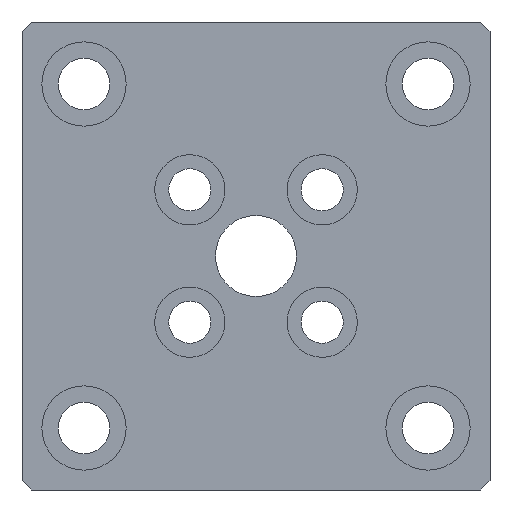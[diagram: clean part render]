
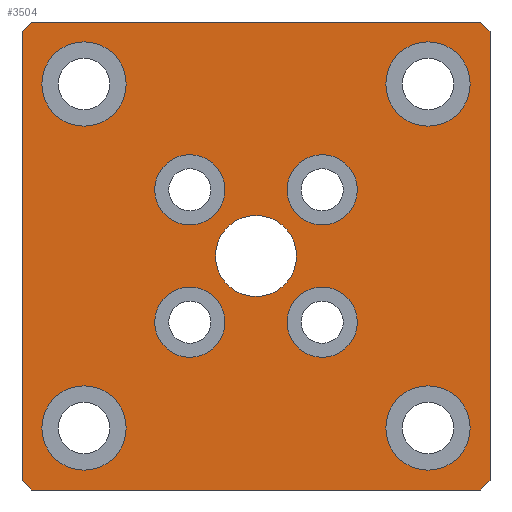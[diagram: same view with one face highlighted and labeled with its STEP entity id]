
A CAD part, front view. The second image highlights one B-rep face of the part: STEP entity #3504.
In plain terms, the highlighted planar face has unit normal (0, -1, 0).
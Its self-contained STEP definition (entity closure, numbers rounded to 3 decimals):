
#45=CIRCLE('',#3622,9.);
#46=CIRCLE('',#3623,9.);
#50=CIRCLE('',#3630,9.);
#51=CIRCLE('',#3631,9.);
#55=CIRCLE('',#3638,9.);
#56=CIRCLE('',#3639,9.);
#60=CIRCLE('',#3646,9.);
#61=CIRCLE('',#3647,9.);
#65=CIRCLE('',#3654,7.5);
#66=CIRCLE('',#3655,7.5);
#70=CIRCLE('',#3662,7.5);
#71=CIRCLE('',#3663,7.5);
#75=CIRCLE('',#3670,7.5);
#76=CIRCLE('',#3671,7.5);
#80=CIRCLE('',#3678,7.5);
#81=CIRCLE('',#3679,7.5);
#82=CIRCLE('',#3684,8.647);
#115=FACE_BOUND('',#761,.T.);
#116=FACE_BOUND('',#762,.T.);
#117=FACE_BOUND('',#763,.T.);
#118=FACE_BOUND('',#764,.T.);
#119=FACE_BOUND('',#765,.T.);
#120=FACE_BOUND('',#766,.T.);
#121=FACE_BOUND('',#767,.T.);
#122=FACE_BOUND('',#768,.T.);
#123=FACE_BOUND('',#769,.T.);
#540=FACE_OUTER_BOUND('',#760,.T.);
#760=EDGE_LOOP('',(#3171,#3172,#3173,#3174,#3175,#3176,#3177,#3178));
#761=EDGE_LOOP('',(#3179,#3180));
#762=EDGE_LOOP('',(#3181,#3182));
#763=EDGE_LOOP('',(#3183,#3184));
#764=EDGE_LOOP('',(#3185,#3186));
#765=EDGE_LOOP('',(#3187,#3188));
#766=EDGE_LOOP('',(#3189,#3190));
#767=EDGE_LOOP('',(#3191,#3192));
#768=EDGE_LOOP('',(#3193,#3194));
#769=EDGE_LOOP('',(#3195));
#1059=LINE('',#6343,#1356);
#1061=LINE('',#6347,#1358);
#1063=LINE('',#6351,#1360);
#1064=LINE('',#6353,#1361);
#1065=LINE('',#6355,#1362);
#1066=LINE('',#6357,#1363);
#1067=LINE('',#6359,#1364);
#1068=LINE('',#6360,#1365);
#1356=VECTOR('',#4274,10.);
#1358=VECTOR('',#4278,10.);
#1360=VECTOR('',#4282,10.);
#1361=VECTOR('',#4283,10.);
#1362=VECTOR('',#4284,10.);
#1363=VECTOR('',#4285,10.);
#1364=VECTOR('',#4286,10.);
#1365=VECTOR('',#4287,10.);
#1669=VERTEX_POINT('',#6227);
#1670=VERTEX_POINT('',#6228);
#1674=VERTEX_POINT('',#6242);
#1675=VERTEX_POINT('',#6243);
#1679=VERTEX_POINT('',#6257);
#1680=VERTEX_POINT('',#6258);
#1684=VERTEX_POINT('',#6272);
#1685=VERTEX_POINT('',#6273);
#1689=VERTEX_POINT('',#6287);
#1690=VERTEX_POINT('',#6288);
#1694=VERTEX_POINT('',#6302);
#1695=VERTEX_POINT('',#6303);
#1699=VERTEX_POINT('',#6317);
#1700=VERTEX_POINT('',#6318);
#1704=VERTEX_POINT('',#6332);
#1705=VERTEX_POINT('',#6333);
#1706=VERTEX_POINT('',#6340);
#1707=VERTEX_POINT('',#6342);
#1708=VERTEX_POINT('',#6346);
#1709=VERTEX_POINT('',#6350);
#1710=VERTEX_POINT('',#6352);
#1711=VERTEX_POINT('',#6354);
#1712=VERTEX_POINT('',#6356);
#1713=VERTEX_POINT('',#6358);
#1714=VERTEX_POINT('',#6361);
#2150=EDGE_CURVE('',#1669,#1670,#45,.T.);
#2151=EDGE_CURVE('',#1670,#1669,#46,.T.);
#2157=EDGE_CURVE('',#1674,#1675,#50,.T.);
#2158=EDGE_CURVE('',#1675,#1674,#51,.T.);
#2164=EDGE_CURVE('',#1679,#1680,#55,.T.);
#2165=EDGE_CURVE('',#1680,#1679,#56,.T.);
#2171=EDGE_CURVE('',#1684,#1685,#60,.T.);
#2172=EDGE_CURVE('',#1685,#1684,#61,.T.);
#2178=EDGE_CURVE('',#1689,#1690,#65,.T.);
#2179=EDGE_CURVE('',#1690,#1689,#66,.T.);
#2185=EDGE_CURVE('',#1694,#1695,#70,.T.);
#2186=EDGE_CURVE('',#1695,#1694,#71,.T.);
#2192=EDGE_CURVE('',#1699,#1700,#75,.T.);
#2193=EDGE_CURVE('',#1700,#1699,#76,.T.);
#2199=EDGE_CURVE('',#1704,#1705,#80,.T.);
#2200=EDGE_CURVE('',#1705,#1704,#81,.T.);
#2204=EDGE_CURVE('',#1706,#1707,#1059,.T.);
#2206=EDGE_CURVE('',#1708,#1707,#1061,.T.);
#2208=EDGE_CURVE('',#1706,#1709,#1063,.T.);
#2209=EDGE_CURVE('',#1710,#1709,#1064,.T.);
#2210=EDGE_CURVE('',#1710,#1711,#1065,.T.);
#2211=EDGE_CURVE('',#1712,#1711,#1066,.T.);
#2212=EDGE_CURVE('',#1712,#1713,#1067,.T.);
#2213=EDGE_CURVE('',#1708,#1713,#1068,.T.);
#2214=EDGE_CURVE('',#1714,#1714,#82,.T.);
#3171=ORIENTED_EDGE('',*,*,#2204,.F.);
#3172=ORIENTED_EDGE('',*,*,#2208,.T.);
#3173=ORIENTED_EDGE('',*,*,#2209,.F.);
#3174=ORIENTED_EDGE('',*,*,#2210,.T.);
#3175=ORIENTED_EDGE('',*,*,#2211,.F.);
#3176=ORIENTED_EDGE('',*,*,#2212,.T.);
#3177=ORIENTED_EDGE('',*,*,#2213,.F.);
#3178=ORIENTED_EDGE('',*,*,#2206,.T.);
#3179=ORIENTED_EDGE('',*,*,#2150,.T.);
#3180=ORIENTED_EDGE('',*,*,#2151,.T.);
#3181=ORIENTED_EDGE('',*,*,#2157,.T.);
#3182=ORIENTED_EDGE('',*,*,#2158,.T.);
#3183=ORIENTED_EDGE('',*,*,#2164,.T.);
#3184=ORIENTED_EDGE('',*,*,#2165,.T.);
#3185=ORIENTED_EDGE('',*,*,#2171,.T.);
#3186=ORIENTED_EDGE('',*,*,#2172,.T.);
#3187=ORIENTED_EDGE('',*,*,#2178,.T.);
#3188=ORIENTED_EDGE('',*,*,#2179,.T.);
#3189=ORIENTED_EDGE('',*,*,#2185,.T.);
#3190=ORIENTED_EDGE('',*,*,#2186,.T.);
#3191=ORIENTED_EDGE('',*,*,#2192,.T.);
#3192=ORIENTED_EDGE('',*,*,#2193,.T.);
#3193=ORIENTED_EDGE('',*,*,#2199,.T.);
#3194=ORIENTED_EDGE('',*,*,#2200,.T.);
#3195=ORIENTED_EDGE('',*,*,#2214,.T.);
#3317=PLANE('',#3683);
#3504=ADVANCED_FACE('',(#540,#115,#116,#117,#118,#119,#120,#121,#122,#123),
#3317,.F.);
#3622=AXIS2_PLACEMENT_3D('',#6229,#4137,#4138);
#3623=AXIS2_PLACEMENT_3D('',#6230,#4139,#4140);
#3630=AXIS2_PLACEMENT_3D('',#6244,#4155,#4156);
#3631=AXIS2_PLACEMENT_3D('',#6245,#4157,#4158);
#3638=AXIS2_PLACEMENT_3D('',#6259,#4173,#4174);
#3639=AXIS2_PLACEMENT_3D('',#6260,#4175,#4176);
#3646=AXIS2_PLACEMENT_3D('',#6274,#4191,#4192);
#3647=AXIS2_PLACEMENT_3D('',#6275,#4193,#4194);
#3654=AXIS2_PLACEMENT_3D('',#6289,#4209,#4210);
#3655=AXIS2_PLACEMENT_3D('',#6290,#4211,#4212);
#3662=AXIS2_PLACEMENT_3D('',#6304,#4227,#4228);
#3663=AXIS2_PLACEMENT_3D('',#6305,#4229,#4230);
#3670=AXIS2_PLACEMENT_3D('',#6319,#4245,#4246);
#3671=AXIS2_PLACEMENT_3D('',#6320,#4247,#4248);
#3678=AXIS2_PLACEMENT_3D('',#6334,#4263,#4264);
#3679=AXIS2_PLACEMENT_3D('',#6335,#4265,#4266);
#3683=AXIS2_PLACEMENT_3D('',#6349,#4280,#4281);
#3684=AXIS2_PLACEMENT_3D('',#6362,#4288,#4289);
#4137=DIRECTION('center_axis',(0.,1.,0.));
#4138=DIRECTION('ref_axis',(0.,0.,-1.));
#4139=DIRECTION('center_axis',(0.,1.,0.));
#4140=DIRECTION('ref_axis',(0.,0.,-1.));
#4155=DIRECTION('center_axis',(0.,1.,0.));
#4156=DIRECTION('ref_axis',(1.,0.,0.));
#4157=DIRECTION('center_axis',(0.,1.,0.));
#4158=DIRECTION('ref_axis',(1.,0.,0.));
#4173=DIRECTION('center_axis',(0.,1.,0.));
#4174=DIRECTION('ref_axis',(0.,0.,1.));
#4175=DIRECTION('center_axis',(0.,1.,0.));
#4176=DIRECTION('ref_axis',(0.,0.,1.));
#4191=DIRECTION('center_axis',(0.,1.,0.));
#4192=DIRECTION('ref_axis',(-1.,0.,0.));
#4193=DIRECTION('center_axis',(0.,1.,0.));
#4194=DIRECTION('ref_axis',(-1.,0.,0.));
#4209=DIRECTION('center_axis',(0.,1.,0.));
#4210=DIRECTION('ref_axis',(0.,0.,-1.));
#4211=DIRECTION('center_axis',(0.,1.,0.));
#4212=DIRECTION('ref_axis',(0.,0.,-1.));
#4227=DIRECTION('center_axis',(0.,1.,0.));
#4228=DIRECTION('ref_axis',(1.,0.,0.));
#4229=DIRECTION('center_axis',(0.,1.,0.));
#4230=DIRECTION('ref_axis',(1.,0.,0.));
#4245=DIRECTION('center_axis',(0.,1.,0.));
#4246=DIRECTION('ref_axis',(0.,0.,1.));
#4247=DIRECTION('center_axis',(0.,1.,0.));
#4248=DIRECTION('ref_axis',(0.,0.,1.));
#4263=DIRECTION('center_axis',(0.,1.,0.));
#4264=DIRECTION('ref_axis',(-1.,0.,0.));
#4265=DIRECTION('center_axis',(0.,1.,0.));
#4266=DIRECTION('ref_axis',(-1.,0.,0.));
#4274=DIRECTION('',(0.707,0.,0.707));
#4278=DIRECTION('',(-1.,0.,0.));
#4280=DIRECTION('center_axis',(0.,1.,0.));
#4281=DIRECTION('ref_axis',(0.,0.,1.));
#4282=DIRECTION('',(0.,0.,-1.));
#4283=DIRECTION('',(-0.707,0.,0.707));
#4284=DIRECTION('',(1.,0.,0.));
#4285=DIRECTION('',(-0.707,0.,-0.707));
#4286=DIRECTION('',(0.,0.,1.));
#4287=DIRECTION('',(0.707,0.,-0.707));
#4288=DIRECTION('center_axis',(0.,1.,0.));
#4289=DIRECTION('ref_axis',(1.,0.,0.));
#6227=CARTESIAN_POINT('',(-86.75,0.,-95.75));
#6228=CARTESIAN_POINT('',(-86.75,0.,-77.75));
#6229=CARTESIAN_POINT('Origin',(-86.75,0.,-86.75));
#6230=CARTESIAN_POINT('Origin',(-86.75,0.,-86.75));
#6242=CARTESIAN_POINT('',(-4.25,0.,-86.75));
#6243=CARTESIAN_POINT('',(-22.25,0.,-86.75));
#6244=CARTESIAN_POINT('Origin',(-13.25,0.,-86.75));
#6245=CARTESIAN_POINT('Origin',(-13.25,0.,-86.75));
#6257=CARTESIAN_POINT('',(-13.25,0.,-4.25));
#6258=CARTESIAN_POINT('',(-13.25,0.,-22.25));
#6259=CARTESIAN_POINT('Origin',(-13.25,0.,-13.25));
#6260=CARTESIAN_POINT('Origin',(-13.25,0.,-13.25));
#6272=CARTESIAN_POINT('',(-95.75,0.,-13.25));
#6273=CARTESIAN_POINT('',(-77.75,0.,-13.25));
#6274=CARTESIAN_POINT('Origin',(-86.75,0.,-13.25));
#6275=CARTESIAN_POINT('Origin',(-86.75,0.,-13.25));
#6287=CARTESIAN_POINT('',(-35.858,0.,-43.358));
#6288=CARTESIAN_POINT('',(-35.858,0.,-28.358));
#6289=CARTESIAN_POINT('Origin',(-35.858,0.,-35.858));
#6290=CARTESIAN_POINT('Origin',(-35.858,0.,-35.858));
#6302=CARTESIAN_POINT('',(-56.642,0.,-35.858));
#6303=CARTESIAN_POINT('',(-71.642,0.,-35.858));
#6304=CARTESIAN_POINT('Origin',(-64.142,0.,-35.858));
#6305=CARTESIAN_POINT('Origin',(-64.142,0.,-35.858));
#6317=CARTESIAN_POINT('',(-64.142,0.,-56.642));
#6318=CARTESIAN_POINT('',(-64.142,0.,-71.642));
#6319=CARTESIAN_POINT('Origin',(-64.142,0.,-64.142));
#6320=CARTESIAN_POINT('Origin',(-64.142,0.,-64.142));
#6332=CARTESIAN_POINT('',(-43.358,0.,-64.142));
#6333=CARTESIAN_POINT('',(-28.358,0.,-64.142));
#6334=CARTESIAN_POINT('Origin',(-35.858,0.,-64.142));
#6335=CARTESIAN_POINT('Origin',(-35.858,0.,-64.142));
#6340=CARTESIAN_POINT('',(-100.,0.,-2.));
#6342=CARTESIAN_POINT('',(-98.,0.,0.));
#6343=CARTESIAN_POINT('',(-99.,0.,-1.));
#6346=CARTESIAN_POINT('',(-2.,0.,0.));
#6347=CARTESIAN_POINT('',(0.,0.,0.));
#6349=CARTESIAN_POINT('Origin',(-50.,0.,-50.));
#6350=CARTESIAN_POINT('',(-100.,0.,-98.));
#6351=CARTESIAN_POINT('',(-100.,0.,0.));
#6352=CARTESIAN_POINT('',(-98.,0.,-100.));
#6353=CARTESIAN_POINT('',(-99.,0.,-99.));
#6354=CARTESIAN_POINT('',(-2.,0.,-100.));
#6355=CARTESIAN_POINT('',(-100.,0.,-100.));
#6356=CARTESIAN_POINT('',(0.,0.,-98.));
#6357=CARTESIAN_POINT('',(-1.,0.,-99.));
#6358=CARTESIAN_POINT('',(0.,0.,-2.));
#6359=CARTESIAN_POINT('',(0.,0.,-100.));
#6360=CARTESIAN_POINT('',(-1.,0.,-1.));
#6361=CARTESIAN_POINT('',(-58.647,0.,-50.));
#6362=CARTESIAN_POINT('Origin',(-50.,0.,-50.));
